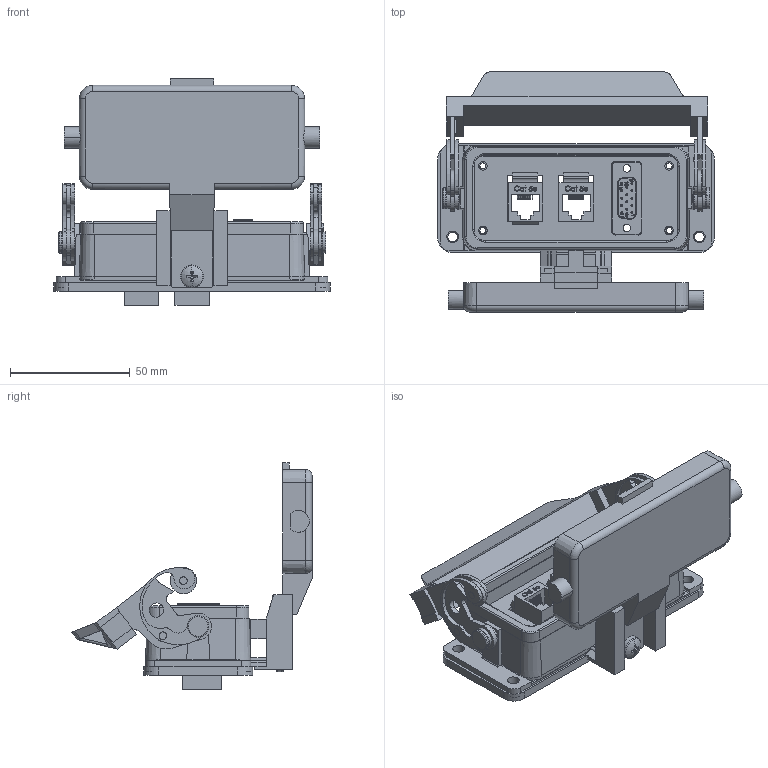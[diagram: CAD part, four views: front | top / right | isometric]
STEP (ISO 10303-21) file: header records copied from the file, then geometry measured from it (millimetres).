
FILE_DESCRIPTION (( 'STEP AP214' ), '1' );
FILE_NAME ('DDB15-2RJ45-16LS.STEP', '2006-07-13T12:50:42', ( 'Mencom User' ), ( 'Mencom Corporation' ), 'SwSTEP 2.0', 'SolidWorks 2006104', '' );
FILE_SCHEMA (( 'AUTOMOTIVE_DESIGN' ));
Length unit declared in the file: inch
Products named in the file (1): DDB15-2RJ45-16LS
Bounding box: 115.5 x 100.28 x 94.59 mm (x, y, z)
Surface area: 72047.8 mm2 (no closed solid volume)
Topology: 0 solids, 45 shells, 891 faces, 3396 edges, 2515 vertices
Faces by surface type: plane 460, cylinder 306, torus 81, bspline 28, cone 14, sphere 2
Entity records: 55405 total; most frequent: CARTESIAN_POINT 15827, DIRECTION 5581, ORIENTED_EDGE 5305, EDGE_CURVE 3396, VERTEX_POINT 2515, VECTOR 2007, LINE 2007, AXIS2_PLACEMENT_3D 1787
